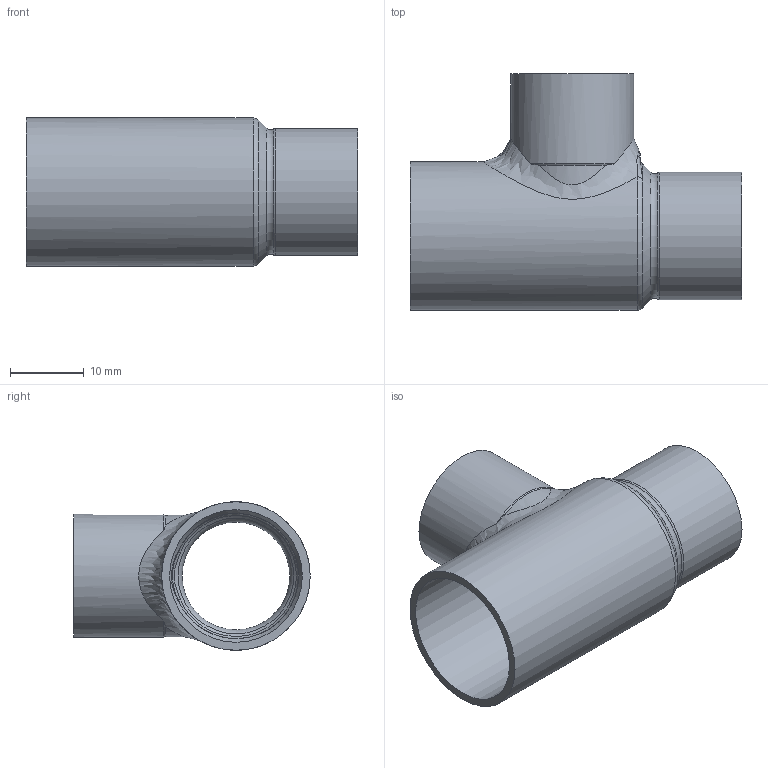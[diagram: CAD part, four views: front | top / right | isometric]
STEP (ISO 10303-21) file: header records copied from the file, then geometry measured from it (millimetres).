
FILE_DESCRIPTION(/* description */ (''),/* implementation_level */ '2;1');
FILE_NAME(/* name */ 'G:\Technik\Management\ontwikkeling\Ontwikkeling + Leveringsdokumenten + proefberichten\Sanha Ternat\Ternat 2024\Step files\5130181515_3d gem.stp',/* time_stamp */ '2024-02-27T13:51:50+01:00',/* author */ ('vdvijverd'),/* organization */ (''),/* preprocessor_version */ 'ST-DEVELOPER v19',/* originating_system */ 'Autodesk Inventor 2023',/* authorisation */ '');
FILE_SCHEMA (('AUTOMOTIVE_DESIGN { 1 0 10303 214 3 1 1 }'));
Length unit declared in the file: millimetre
Products named in the file (1): 5130181515_3d gem
Bounding box: 45 x 32.08 x 20.15 mm (x, y, z)
Volume: 3706.1 mm3; surface area: 6306.4 mm2
Topology: 1 solids, 1 shells, 34 faces, 90 edges, 57 vertices
Faces by surface type: cylinder 11, torus 7, bspline 6, cone 6, plane 4
Full cylindrical faces by diameter (mm): 15 x2, 16.7 x1, 17.25 x1, 18 x1, 20.15 x1
Entity records: 1684 total; most frequent: CARTESIAN_POINT 827, ORIENTED_EDGE 180, DIRECTION 164, EDGE_CURVE 90, AXIS2_PLACEMENT_3D 77, VERTEX_POINT 57, CIRCLE 48, EDGE_LOOP 37
